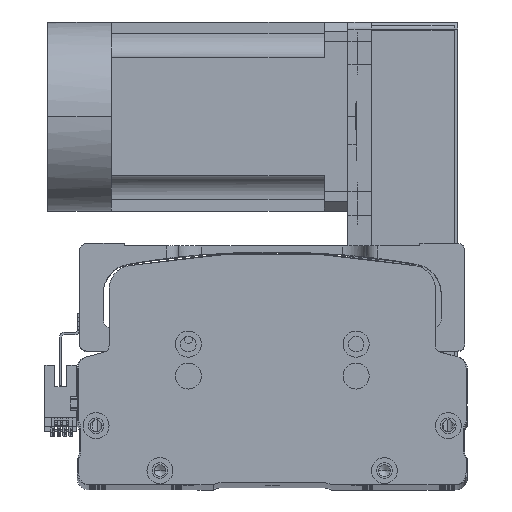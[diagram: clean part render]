
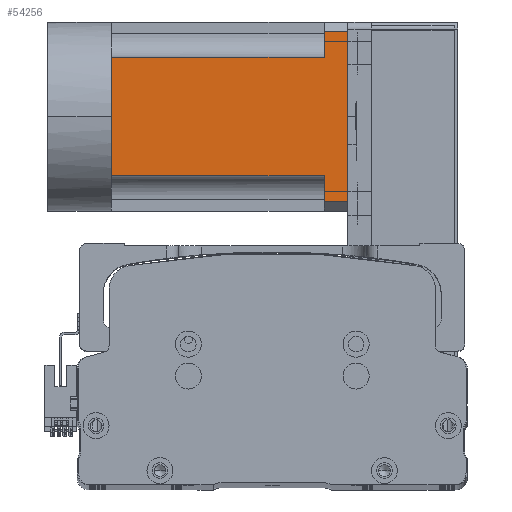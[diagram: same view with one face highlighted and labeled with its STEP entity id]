
A CAD part, top view. The second image highlights one B-rep face of the part: STEP entity #54256.
In plain terms, the highlighted planar face has unit normal (0, 0, 1) as drawn and (0, 0, -1) by its records, which use the part's own axes.
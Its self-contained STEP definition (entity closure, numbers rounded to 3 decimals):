
#435 = LINE ( 'NONE', #24747, #61242 ) ;
#2426 = VECTOR ( 'NONE', #33578, 1000. ) ;
#3011 = VERTEX_POINT ( 'NONE', #24483 ) ;
#4707 = DIRECTION ( 'NONE',  ( -1., 0., 0. ) ) ;
#4782 = VECTOR ( 'NONE', #63615, 1000. ) ;
#4837 = CARTESIAN_POINT ( 'NONE',  ( -25., -27., -40. ) ) ;
#4863 = VECTOR ( 'NONE', #20246, 1000. ) ;
#5552 = FACE_OUTER_BOUND ( 'NONE', #58311, .T. ) ;
#7833 = VERTEX_POINT ( 'NONE', #38162 ) ;
#9475 = CARTESIAN_POINT ( 'NONE',  ( -25., 90., -40. ) ) ;
#9783 = DIRECTION ( 'NONE',  ( 0., -1., 0. ) ) ;
#11371 = CARTESIAN_POINT ( 'NONE',  ( 36., 90., -40. ) ) ;
#12740 = ORIENTED_EDGE ( 'NONE', *, *, #36181, .F. ) ;
#12911 = CARTESIAN_POINT ( 'NONE',  ( 36., -27., -40. ) ) ;
#13754 = VECTOR ( 'NONE', #59846, 1000. ) ;
#13763 = EDGE_CURVE ( 'NONE', #49367, #53828, #39561, .T. ) ;
#13845 = ORIENTED_EDGE ( 'NONE', *, *, #13763, .T. ) ;
#13910 = ORIENTED_EDGE ( 'NONE', *, *, #45730, .T. ) ;
#15204 = VERTEX_POINT ( 'NONE', #48027 ) ;
#16856 = VERTEX_POINT ( 'NONE', #9475 ) ;
#17612 = VERTEX_POINT ( 'NONE', #11371 ) ;
#17779 = EDGE_CURVE ( 'NONE', #15204, #17612, #56519, .T. ) ;
#17834 = VECTOR ( 'NONE', #48155, 1000. ) ;
#18192 = CARTESIAN_POINT ( 'NONE',  ( -40., 90., -40. ) ) ;
#19736 = CARTESIAN_POINT ( 'NONE',  ( -40., -27., -40. ) ) ;
#20246 = DIRECTION ( 'NONE',  ( -1., 0., 0. ) ) ;
#20818 = LINE ( 'NONE', #4837, #59535 ) ;
#20882 = ORIENTED_EDGE ( 'NONE', *, *, #61192, .T. ) ;
#22649 = CARTESIAN_POINT ( 'NONE',  ( -40., 0., -40. ) ) ;
#24483 = CARTESIAN_POINT ( 'NONE',  ( 25., 90., -40. ) ) ;
#24747 = CARTESIAN_POINT ( 'NONE',  ( 25., -27., -40. ) ) ;
#25066 = EDGE_CURVE ( 'NONE', #7833, #61878, #42686, .T. ) ;
#25546 = ORIENTED_EDGE ( 'NONE', *, *, #56479, .T. ) ;
#26855 = CARTESIAN_POINT ( 'NONE',  ( 25., 0., -40. ) ) ;
#26886 = VERTEX_POINT ( 'NONE', #26855 ) ;
#28271 = CARTESIAN_POINT ( 'NONE',  ( -36., 100., -40. ) ) ;
#28318 = AXIS2_PLACEMENT_3D ( 'NONE', #19736, #34941, #4707 ) ;
#29934 = DIRECTION ( 'NONE',  ( 0., 1., 0. ) ) ;
#31414 = CARTESIAN_POINT ( 'NONE',  ( -25., 0., -40. ) ) ;
#32805 = DIRECTION ( 'NONE',  ( -1., 0., 0. ) ) ;
#33578 = DIRECTION ( 'NONE',  ( 0., 1., 0. ) ) ;
#34941 = DIRECTION ( 'NONE',  ( 0., 0., -1. ) ) ;
#35698 = ORIENTED_EDGE ( 'NONE', *, *, #39001, .T. ) ;
#36181 = EDGE_CURVE ( 'NONE', #15204, #61878, #43283, .T. ) ;
#36714 = ORIENTED_EDGE ( 'NONE', *, *, #25066, .T. ) ;
#38162 = CARTESIAN_POINT ( 'NONE',  ( -36., 90., -40. ) ) ;
#39001 = EDGE_CURVE ( 'NONE', #17612, #3011, #53980, .T. ) ;
#39561 = LINE ( 'NONE', #22649, #63229 ) ;
#40372 = LINE ( 'NONE', #55558, #4863 ) ;
#42686 = LINE ( 'NONE', #63814, #2426 ) ;
#43092 = CARTESIAN_POINT ( 'NONE',  ( 0., 0., -40. ) ) ;
#43283 = LINE ( 'NONE', #52484, #56768 ) ;
#44873 = PLANE ( 'NONE',  #28318 ) ;
#45730 = EDGE_CURVE ( 'NONE', #3011, #26886, #435, .T. ) ;
#48027 = CARTESIAN_POINT ( 'NONE',  ( 36., 100., -40. ) ) ;
#48155 = DIRECTION ( 'NONE',  ( 0., -1., 0. ) ) ;
#48215 = LINE ( 'NONE', #18192, #4782 ) ;
#49367 = VERTEX_POINT ( 'NONE', #43092 ) ;
#52484 = CARTESIAN_POINT ( 'NONE',  ( -40., 100., -40. ) ) ;
#53649 = EDGE_CURVE ( 'NONE', #26886, #49367, #40372, .T. ) ;
#53828 = VERTEX_POINT ( 'NONE', #31414 ) ;
#53980 = LINE ( 'NONE', #54753, #13754 ) ;
#54256 = ADVANCED_FACE ( 'NONE', ( #5552 ), #44873, .T. ) ;
#54753 = CARTESIAN_POINT ( 'NONE',  ( -40., 90., -40. ) ) ;
#55558 = CARTESIAN_POINT ( 'NONE',  ( -40., 0., -40. ) ) ;
#56479 = EDGE_CURVE ( 'NONE', #16856, #7833, #48215, .T. ) ;
#56519 = LINE ( 'NONE', #12911, #17834 ) ;
#56724 = ORIENTED_EDGE ( 'NONE', *, *, #17779, .T. ) ;
#56768 = VECTOR ( 'NONE', #57587, 1000. ) ;
#57587 = DIRECTION ( 'NONE',  ( -1., 0., 0. ) ) ;
#58311 = EDGE_LOOP ( 'NONE', ( #12740, #56724, #35698, #13910, #61227, #13845, #20882, #25546, #36714 ) ) ;
#59535 = VECTOR ( 'NONE', #29934, 1000. ) ;
#59846 = DIRECTION ( 'NONE',  ( -1., 0., 0. ) ) ;
#61192 = EDGE_CURVE ( 'NONE', #53828, #16856, #20818, .T. ) ;
#61227 = ORIENTED_EDGE ( 'NONE', *, *, #53649, .T. ) ;
#61242 = VECTOR ( 'NONE', #9783, 1000. ) ;
#61878 = VERTEX_POINT ( 'NONE', #28271 ) ;
#63229 = VECTOR ( 'NONE', #32805, 1000. ) ;
#63615 = DIRECTION ( 'NONE',  ( -1., 0., 0. ) ) ;
#63814 = CARTESIAN_POINT ( 'NONE',  ( -36., -27., -40. ) ) ;
